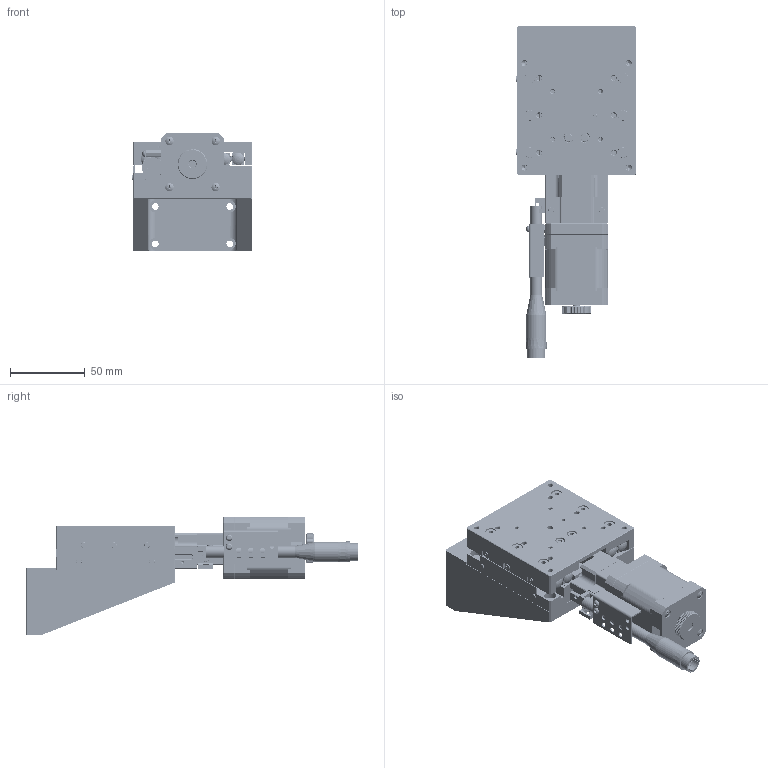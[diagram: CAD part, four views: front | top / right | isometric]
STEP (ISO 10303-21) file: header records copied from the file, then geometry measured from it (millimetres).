
FILE_DESCRIPTION (( 'STEP AP214' ), '1' );
FILE_NAME ('TZL8030B-L2-M42L.STEP', '2025-01-03T09:25:07', ( '' ), ( '' ), 'SwSTEP 2.0', 'SolidWorks 2020', '' );
FILE_SCHEMA (( 'AUTOMOTIVE_DESIGN' ));
Length unit declared in the file: millimetre
Products named in the file (1): TZL8030B-L2-M42L
Bounding box: 80.71 x 222.75 x 79.56 mm (x, y, z)
Volume: 364284.8 mm3; surface area: 153092.5 mm2
Topology: 86 solids, 86 shells, 4758 faces, 11516 edges, 7042 vertices
Faces by surface type: plane 1776, cone 1723, cylinder 917, torus 180, bspline 154, sphere 8
Entity records: 209361 total; most frequent: CARTESIAN_POINT 38183, DIRECTION 24987, ORIENTED_EDGE 23656, EDGE_CURVE 11828, AXIS2_PLACEMENT_3D 9200, VERTEX_POINT 7298, VECTOR 6587, LINE 6587
